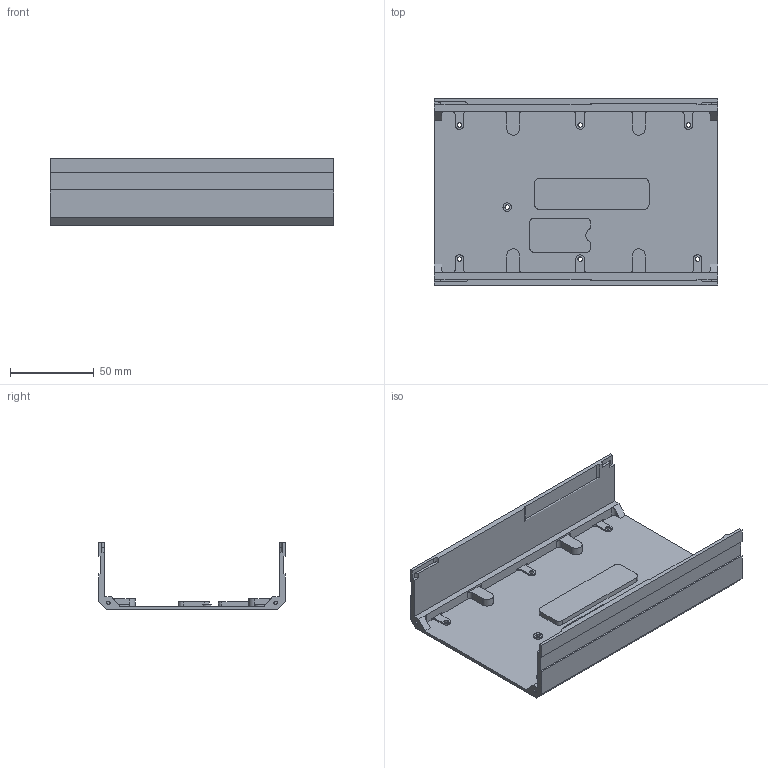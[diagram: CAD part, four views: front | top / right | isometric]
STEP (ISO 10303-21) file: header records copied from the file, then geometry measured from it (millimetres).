
FILE_DESCRIPTION(/* description */ ('Mechanical assembly'),/* implementation_level */ '2;1');
FILE_NAME(/* name */ 'cnc-milled-bottom-shell-al.step',/* author */ 'Antmicro',/* time_stamp */ '2026-04-10T14:20:06.931432+02:00',/* commit_sha */ 'eddb39f28ccbc5f8daa44304dfdfea7f8db63fb1',/* commit_msg */ '[#94115] Update part description',/* generator */ 'stephen',/* generator_ver */ '0.0.1');
FILE_SCHEMA(('AUTOMOTIVE_DESIGN { 1 0 10303 214 1 1 1 1 }'));
Length unit declared in the file: millimetre
Products named in the file (1): C-JAT-BS-AL-A
Bounding box: 169 x 111 x 40.54 mm (x, y, z)
Volume: 89851.5 mm3; surface area: 66925.3 mm2
Topology: 1 solids, 1 shells, 183 faces, 496 edges, 327 vertices
Faces by surface type: plane 101, cylinder 75, cone 7
Full cylindrical faces by diameter (mm): 2.075 x4, 2.7 x7, 3.332 x4, 5.1 x1, 5.116 x1
Entity records: 12581 total; most frequent: CARTESIAN_POINT 2551, DIRECTION 1933, LINE 1177, VECTOR 1177, ORIENTED_EDGE 992, PCURVE 992, DEFINITIONAL_REPRESENTATION 992, EDGE_CURVE 496
